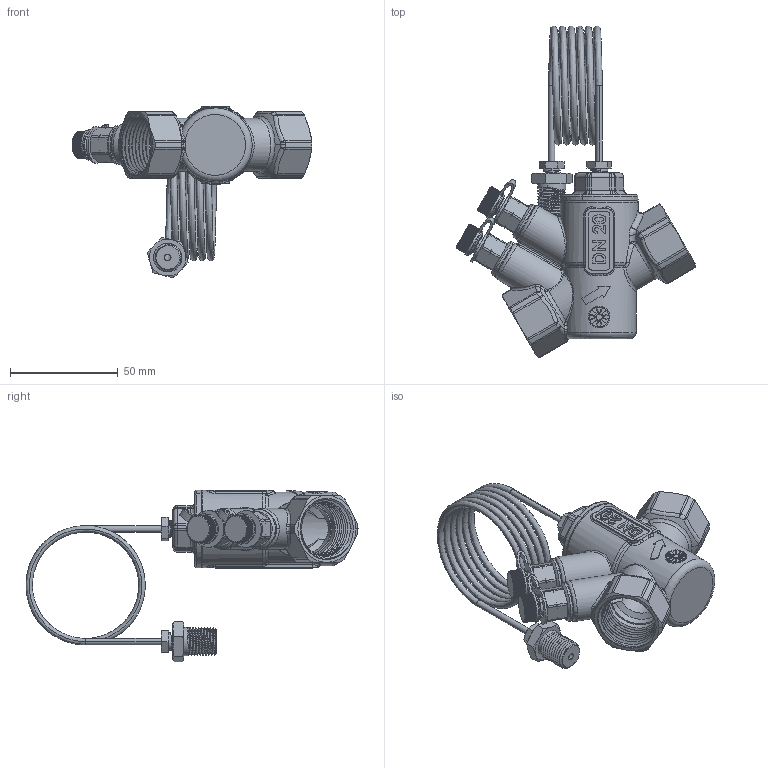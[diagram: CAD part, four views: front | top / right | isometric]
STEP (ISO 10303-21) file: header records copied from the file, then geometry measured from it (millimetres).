
FILE_DESCRIPTION (( 'STEP AP203' ), '1' );
FILE_NAME ('SDP.30 ABHouse DN20 ISO FF PTplugs.step', '2024-04-12T07:29:21', ( '' ), ( '' ), 'SwSTEP 2.0', 'SolidWorks 2023', '' );
FILE_SCHEMA (( 'CONFIG_CONTROL_DESIGN' ));
Products named in the file (1): SDP.30 ABHouse DN20 ISO FF PTplugs
Bounding box: 111.13 x 153.79 x 79.64 mm (x, y, z)
Surface area: 40136.4 mm2 (no closed solid volume)
Topology: 0 solids, 24 shells, 2232 faces, 11918 edges, 8910 vertices
Faces by surface type: bspline 928, cylinder 765, plane 261, cone 163, torus 79, sphere 36
Entity records: 362124 total; most frequent: CARTESIAN_POINT 294496, ORIENTED_EDGE 16852, EDGE_CURVE 11885, B_SPLINE_CURVE_WITH_KNOTS 9668, VERTEX_POINT 8906, DIRECTION 5815, AXIS2_PLACEMENT_3D 2443, EDGE_LOOP 2306
